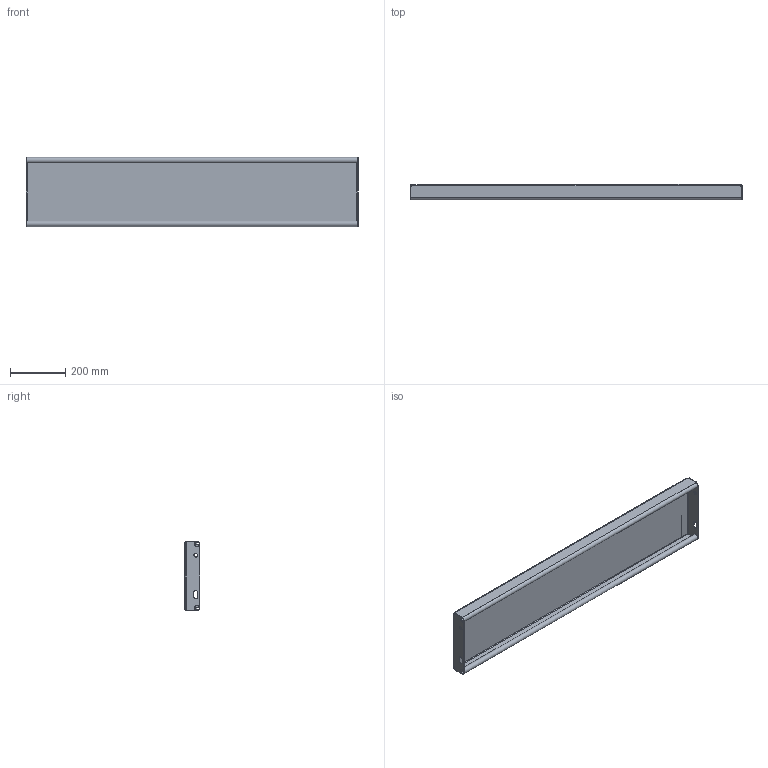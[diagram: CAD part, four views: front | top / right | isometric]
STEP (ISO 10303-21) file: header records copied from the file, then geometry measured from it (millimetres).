
FILE_DESCRIPTION (( 'STEP AP214' ), '1' );
FILE_NAME ('OPTIMO-Tread-Achil-O2-1200x250x57x2-st240-F100380100_plain.STEP', '2021-03-16T13:52:52', ( '' ), ( '' ), 'SwSTEP 2.0', 'SolidWorks 2021', '' );
FILE_SCHEMA (( 'AUTOMOTIVE_DESIGN' ));
Length unit declared in the file: millimetre
Products named in the file (1): OPTIMO-Tread-Achil-O2-1200x250x57x2-st240-F100380100_plain
Bounding box: 1200 x 57 x 250 mm (x, y, z)
Volume: 1900959.5 mm3; surface area: 1090700.3 mm2
Topology: 1 solids, 1 shells, 248 faces, 640 edges, 412 vertices
Faces by surface type: plane 173, bspline 39, cylinder 36
Entity records: 9924 total; most frequent: CARTESIAN_POINT 4092, ORIENTED_EDGE 1280, DIRECTION 1022, EDGE_CURVE 640, LINE 490, VECTOR 490, VERTEX_POINT 412, EDGE_LOOP 274
